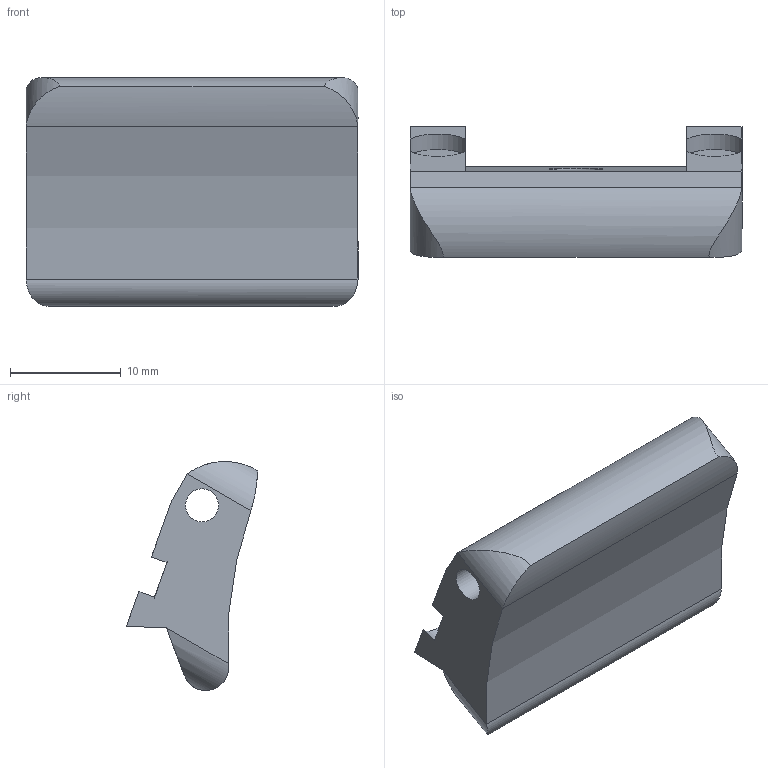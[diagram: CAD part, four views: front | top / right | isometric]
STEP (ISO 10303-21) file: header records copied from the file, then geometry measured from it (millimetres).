
FILE_DESCRIPTION(/* description */ ('STEP AP242 Edition 2','CAx-IF Rec.Pracs.---Representation and Presentation of Product Manufacturing Information (PMI)---4.0---2014-10-13','CAx-IF Rec.Pracs.---3D Tessellated Geometry---0.4---2014-09-14','2;1','CAx-IF Rec.Pracs.---User Defined Attributes---1.5---2016-08-15'),/* implementation_level */ '2;1');
FILE_NAME(/* name */ 'Controller - right trigger 1',/* time_stamp */ '2026-11-08T20:41:02Z',/* author */ (''),/* organization */ (''),/* preprocessor_version */ 'ST-DEVELOPER v20',/* originating_system */ 'ONSHAPE BY PTC INC, 1.223',/* authorisation */ ' ');
FILE_SCHEMA (('AP242_MANAGED_MODEL_BASED_3D_ENGINEERING_MIM_LF { 1 0 10303 442 3 1 4 }'));
Length unit declared in the file: metre
Products named in the file (1): right trigger 1
Bounding box: 30 x 11.86 x 20.69 mm (x, y, z)
Volume: 3377.5 mm3; surface area: 2108.8 mm2
Topology: 1 solids, 1 shells, 30 faces, 69 edges, 42 vertices
Faces by surface type: plane 16, cylinder 14
Full cylindrical faces by diameter (mm): 3 x1, 5.1 x1
Entity records: 884 total; most frequent: CARTESIAN_POINT 187, DIRECTION 139, ORIENTED_EDGE 134, EDGE_CURVE 67, AXIS2_PLACEMENT_3D 47, LINE 45, VECTOR 45, VERTEX_POINT 42
